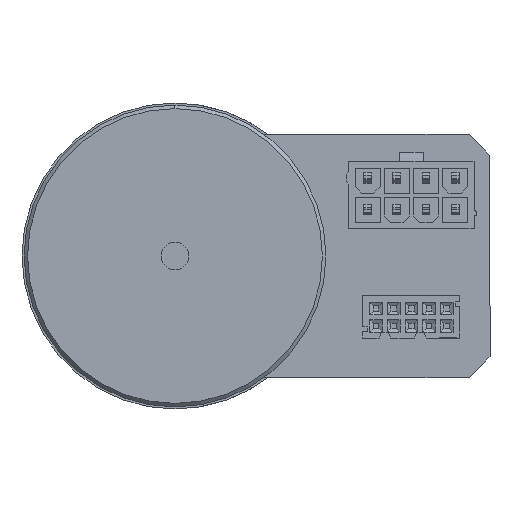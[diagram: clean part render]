
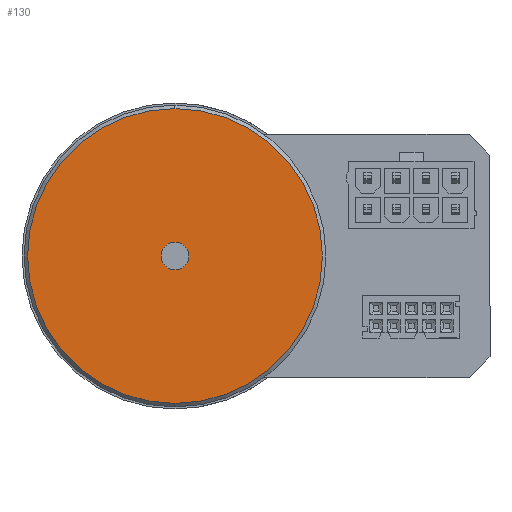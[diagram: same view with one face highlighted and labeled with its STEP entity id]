
A CAD part, left-side view. The second image highlights one B-rep face of the part: STEP entity #130.
In plain terms, the highlighted planar face has unit normal (-1, 0, 0) as drawn and (1, 0, 0) by its records, which use the part's own axes.
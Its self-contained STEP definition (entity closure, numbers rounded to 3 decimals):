
#130 = ADVANCED_FACE ( 'NONE', ( #26549, #27478 ), #32020, .F. ) ;
#568 = VERTEX_POINT ( 'NONE', #33724 ) ;
#606 = VERTEX_POINT ( 'NONE', #18899 ) ;
#1323 = CARTESIAN_POINT ( 'NONE',  ( 28.4, 0., 0. ) ) ;
#1400 = EDGE_CURVE ( 'NONE', #32144, #606, #14581, .T. ) ;
#1676 = EDGE_LOOP ( 'NONE', ( #20564, #5820 ) ) ;
#2507 = AXIS2_PLACEMENT_3D ( 'NONE', #8140, #11144, #32137 ) ;
#2798 = AXIS2_PLACEMENT_3D ( 'NONE', #21681, #3634, #24668 ) ;
#3634 = DIRECTION ( 'NONE',  ( -1., 0., 0. ) ) ;
#4344 = DIRECTION ( 'NONE',  ( 0., 0., 1. ) ) ;
#5820 = ORIENTED_EDGE ( 'NONE', *, *, #7782, .T. ) ;
#7581 = DIRECTION ( 'NONE',  ( -1., 0., 0. ) ) ;
#7782 = EDGE_CURVE ( 'NONE', #606, #32144, #26783, .T. ) ;
#8140 = CARTESIAN_POINT ( 'NONE',  ( 28.4, 21.7, 0. ) ) ;
#9753 = EDGE_CURVE ( 'NONE', #15487, #568, #17264, .T. ) ;
#9862 = DIRECTION ( 'NONE',  ( 1., 0., 0. ) ) ;
#11144 = DIRECTION ( 'NONE',  ( -1., 0., 0. ) ) ;
#14581 = CIRCLE ( 'NONE', #2798, 2. ) ;
#15020 = EDGE_LOOP ( 'NONE', ( #28576, #34516 ) ) ;
#15487 = VERTEX_POINT ( 'NONE', #22792 ) ;
#17264 = CIRCLE ( 'NONE', #23698, 21.2 ) ;
#18899 = CARTESIAN_POINT ( 'NONE',  ( 28.4, 0., -2. ) ) ;
#20564 = ORIENTED_EDGE ( 'NONE', *, *, #1400, .T. ) ;
#21681 = CARTESIAN_POINT ( 'NONE',  ( 28.4, 0., 0. ) ) ;
#22026 = CIRCLE ( 'NONE', #26499, 21.2 ) ;
#22368 = DIRECTION ( 'NONE',  ( 1., 0., 0. ) ) ;
#22792 = CARTESIAN_POINT ( 'NONE',  ( 28.4, 0., -21.2 ) ) ;
#23698 = AXIS2_PLACEMENT_3D ( 'NONE', #27807, #9862, #30819 ) ;
#24668 = DIRECTION ( 'NONE',  ( 0., 0., 1. ) ) ;
#25538 = CARTESIAN_POINT ( 'NONE',  ( 28.4, 0., 0. ) ) ;
#26499 = AXIS2_PLACEMENT_3D ( 'NONE', #1323, #22368, #4344 ) ;
#26549 = FACE_OUTER_BOUND ( 'NONE', #15020, .T. ) ;
#26783 = CIRCLE ( 'NONE', #27677, 2. ) ;
#27478 = FACE_BOUND ( 'NONE', #1676, .T. ) ;
#27677 = AXIS2_PLACEMENT_3D ( 'NONE', #25538, #7581, #28554 ) ;
#27807 = CARTESIAN_POINT ( 'NONE',  ( 28.4, 0., 0. ) ) ;
#28554 = DIRECTION ( 'NONE',  ( 0., 0., 1. ) ) ;
#28576 = ORIENTED_EDGE ( 'NONE', *, *, #34621, .T. ) ;
#30819 = DIRECTION ( 'NONE',  ( 0., 0., 1. ) ) ;
#32020 = PLANE ( 'NONE',  #2507 ) ;
#32137 = DIRECTION ( 'NONE',  ( 0., 0., 1. ) ) ;
#32144 = VERTEX_POINT ( 'NONE', #36387 ) ;
#33724 = CARTESIAN_POINT ( 'NONE',  ( 28.4, 0., 21.2 ) ) ;
#34516 = ORIENTED_EDGE ( 'NONE', *, *, #9753, .T. ) ;
#34621 = EDGE_CURVE ( 'NONE', #568, #15487, #22026, .T. ) ;
#36387 = CARTESIAN_POINT ( 'NONE',  ( 28.4, 0., 2. ) ) ;
